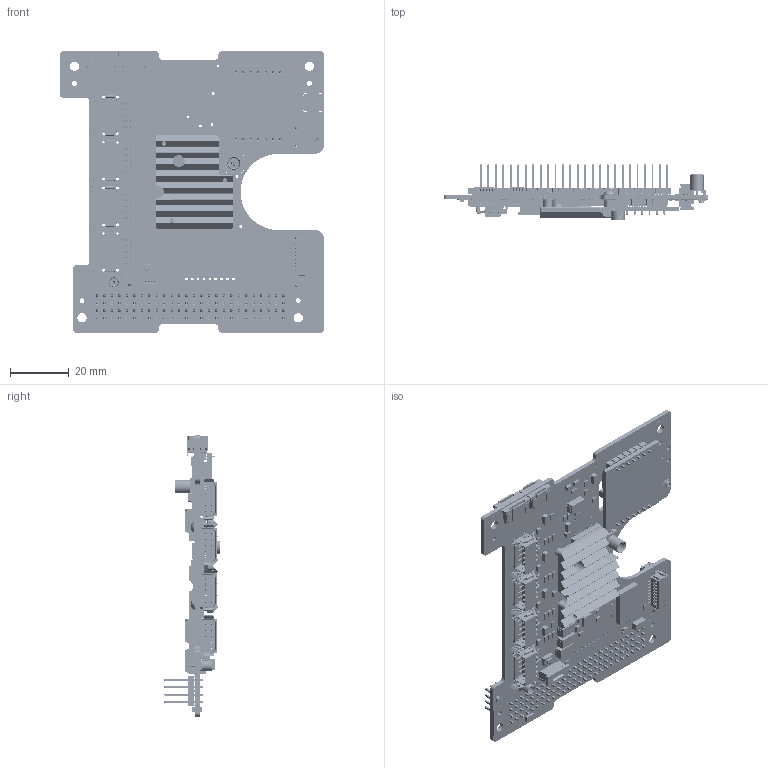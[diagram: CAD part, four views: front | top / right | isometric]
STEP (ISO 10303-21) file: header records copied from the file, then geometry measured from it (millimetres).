
FILE_DESCRIPTION (( 'STEP AP214' ), '1' );
FILE_NAME ('710-01766-D Payload Interface Module.STEP', '2017-11-13T18:37:15', ( '' ), ( '' ), 'SwSTEP 2.0', 'SolidWorks 2014', '' );
FILE_SCHEMA (( 'AUTOMOTIVE_DESIGN' ));
Length unit declared in the file: inch
Products named in the file (2): 710-01766-D Payload Interface Module
Bounding box: 90.17 x 19.17 x 95.88 mm (x, y, z)
Volume: 19740.6 mm3; surface area: 35334 mm2
Topology: 106 solids, 144 shells, 14594 faces, 38865 edges, 24377 vertices
Faces by surface type: plane 12072, cylinder 1945, cone 520, bspline 36, torus 15, sphere 6
Entity records: 472501 total; most frequent: CARTESIAN_POINT 83322, ORIENTED_EDGE 77490, DIRECTION 70477, EDGE_CURVE 38745, VECTOR 33681, LINE 33681, VERTEX_POINT 24377, AXIS2_PLACEMENT_3D 18398
